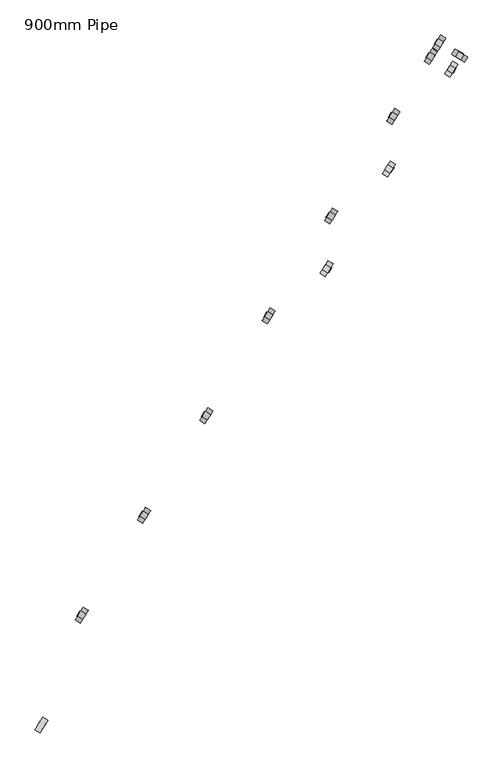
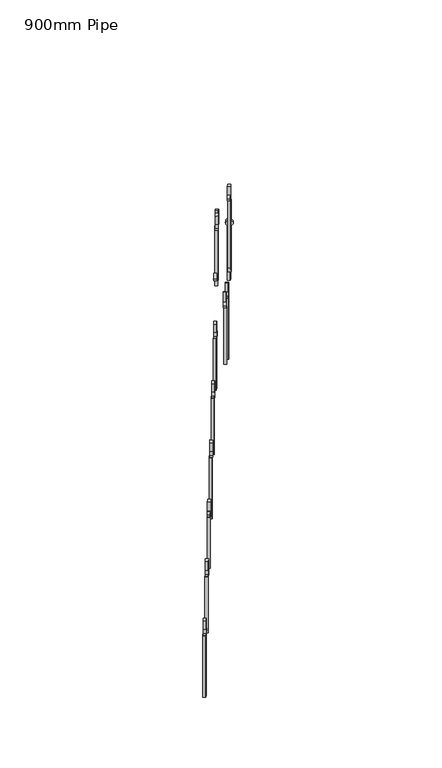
"""IFC4 building model written with IfcOpenShell, lengths in millimetres: railing geometry, 900mm Pipe."""

from ifc_helpers import new_model, si_unit, point, frame, frame_2d, origin, place, context, project, spatial, polyline, circle_curve, trimmed, segment, composite_curve, outline, extrude, source, transform, mapped, element, save


def railing_900mm_pipe_41d44f0b(model_context):
    return source(origin(), model_context, "Body", "SweptSolid", [
        extrude(outline(composite_curve([segment(trimmed(circle_curve(frame_2d((0.0, -31.75)), 31.75), [point((0.0, -63.5))], [point((0.0, 0.0))], False, "CARTESIAN"), True, "CONTINUOUS"), segment(trimmed(circle_curve(frame_2d((0.0, -31.75)), 31.75), [point((0.0, 0.0))], [point((0.0, -63.5))], False, "CARTESIAN"), True, "CONTINUOUS")], self_intersect=False), holes=[composite_curve([segment(trimmed(circle_curve(frame_2d((0.0, -31.75)), 12.7), [point((0.0, -44.45))], [point((0.0, -19.05))], True, "CARTESIAN"), True, "CONTINUOUS"), segment(trimmed(circle_curve(frame_2d((0.0, -31.75)), 12.7), [point((0.0, -19.05))], [point((0.0, -44.45))], True, "CARTESIAN"), True, "CONTINUOUS")], self_intersect=False)]), frame((47195.2119075, -51385.7704072, -600.65), z_axis=(-0.8480480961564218, 0.5299192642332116, 0.0), x_axis=(0.0, 0.0, 1.0)), (0.0, 0.0, 1.0), 25.4),
        extrude(outline(polyline([(47167.9515703, -51387.4557151), (47189.4919919, -51400.9156644), (47176.0320426, -51422.4560861), (47154.491621, -51408.9961368), (47167.9515703, -51387.4557151)])), frame((0.0, 0.0, -1200.0), z_axis=(0.0, 0.0, 1.0), x_axis=(1.0, 0.0, 0.0)), (0.0, 0.0, 1.0), 567.6),
        extrude(outline(polyline([(317.5, 0.0), (317.5, -25.4), (234.95, -25.4), (222.25, 0.0), (317.5, 0.0)])), frame((47171.6569962, -51423.4661451, -251.4), z_axis=(-0.8480480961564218, 0.5299192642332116, 0.0), x_axis=(0.0, 0.0, -1.0)), (0.0, 0.0, 1.0), 25.4),
        extrude(outline(composite_curve([segment(trimmed(circle_curve(frame_2d((0.0, -31.75)), 31.75), [point((0.0, -63.5))], [point((0.0, 0.0))], False, "CARTESIAN"), True, "CONTINUOUS"), segment(trimmed(circle_curve(frame_2d((0.0, -31.75)), 31.75), [point((0.0, 0.0))], [point((0.0, -63.5))], False, "CARTESIAN"), True, "CONTINUOUS")], self_intersect=False), holes=[composite_curve([segment(trimmed(circle_curve(frame_2d((0.0, -31.75)), 12.7), [point((0.0, -44.4499999))], [point((0.0, -19.05))], True, "CARTESIAN"), True, "CONTINUOUS"), segment(trimmed(circle_curve(frame_2d((0.0, -31.75)), 12.7), [point((0.0, -19.05))], [point((0.0, -44.4499999))], True, "CARTESIAN"), True, "CONTINUOUS")], self_intersect=False)]), frame((47460.1715397, -50961.7463592, -850.65), z_axis=(-0.8480480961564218, 0.5299192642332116, 0.0), x_axis=(0.0, 0.0, 1.0)), (0.0, 0.0, 1.0), 25.4),
        extrude(outline(polyline([(47432.9112024, -50963.431667), (47454.451624, -50976.8916164), (47440.9916747, -50998.432038), (47419.4512531, -50984.9720887), (47432.9112024, -50963.431667)])), frame((0.0, 0.0, -1500.0), z_axis=(0.0, 0.0, 1.0), x_axis=(1.0, 0.0, 0.0)), (0.0, 0.0, 1.0), 617.6),
        extrude(outline(polyline([(317.5, 0.0), (317.5, -25.4), (234.95, -25.4), (222.25, 0.0), (317.5, 0.0)])), frame((47436.6166284, -50999.442097, -501.4), z_axis=(-0.8480480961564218, 0.5299192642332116, 0.0), x_axis=(0.0, 0.0, -1.0)), (0.0, 0.0, 1.0), 25.4),
        extrude(outline(composite_curve([segment(trimmed(circle_curve(frame_2d((0.0, -31.75)), 31.75), [point((0.0, -63.5))], [point((0.0, 0.0))], False, "CARTESIAN"), True, "CONTINUOUS"), segment(trimmed(circle_curve(frame_2d((0.0, -31.75)), 31.75), [point((0.0, 0.0))], [point((0.0, -63.5))], False, "CARTESIAN"), True, "CONTINUOUS")], self_intersect=False), holes=[composite_curve([segment(trimmed(circle_curve(frame_2d((0.0, -31.75)), 12.7), [point((0.0, -44.4499999))], [point((0.0, -19.05))], True, "CARTESIAN"), True, "CONTINUOUS"), segment(trimmed(circle_curve(frame_2d((0.0, -31.75)), 12.7), [point((0.0, -19.05))], [point((0.0, -44.4499999))], True, "CARTESIAN"), True, "CONTINUOUS")], self_intersect=False)]), frame((47445.6493685, -50791.7140474, -1400.65), z_axis=(-0.8480480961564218, 0.5299192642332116, 0.0), x_axis=(0.0, 0.0, -1.0)), (0.0, 0.0, 1.0), 25.4),
        extrude(outline(polyline([(47451.3692841, -50776.5687902), (47429.8288625, -50763.1088409), (47443.2888118, -50741.5684193), (47464.8292334, -50755.0283686), (47451.3692841, -50776.5687902)])), frame((0.0, 0.0, -1950.0), z_axis=(0.0, 0.0, 1.0), x_axis=(1.0, 0.0, 0.0)), (0.0, 0.0, 1.0), 517.6),
        extrude(outline(polyline([(317.5, 0.0), (317.5, -25.4), (222.25, -25.4), (234.95, 0.0), (317.5, 0.0)])), frame((47455.7443305, -50775.5587312, -1051.4), z_axis=(-0.8480480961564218, 0.5299192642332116, 0.0), x_axis=(0.0, 0.0, -1.0)), (0.0, 0.0, 1.0), 25.4),
        extrude(outline(composite_curve([segment(trimmed(circle_curve(frame_2d((0.0, -31.7499999)), 31.75), [point((0.0, -63.5))], [point((0.0, 0.0))], False, "CARTESIAN"), True, "CONTINUOUS"), segment(trimmed(circle_curve(frame_2d((0.0, -31.7499999)), 31.75), [point((0.0, 0.0))], [point((0.0, -63.5))], False, "CARTESIAN"), True, "CONTINUOUS")], self_intersect=False), holes=[composite_curve([segment(trimmed(circle_curve(frame_2d((0.0, -31.7499999)), 12.7), [point((0.0, -44.45))], [point((0.0, -19.05))], True, "CARTESIAN"), True, "CONTINUOUS"), segment(trimmed(circle_curve(frame_2d((0.0, -31.7499999)), 12.7), [point((0.0, -19.05))], [point((0.0, -44.45))], True, "CARTESIAN"), True, "CONTINUOUS")], self_intersect=False)]), frame((47180.6897364, -51215.7380955, -1650.65), z_axis=(-0.8480480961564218, 0.5299192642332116, 0.0), x_axis=(0.0, 0.0, -1.0)), (0.0, 0.0, 1.0), 25.4),
        extrude(outline(polyline([(47186.409652, -51200.5928383), (47164.8692304, -51187.132889), (47178.3291797, -51165.5924674), (47199.8696013, -51179.0524167), (47186.409652, -51200.5928383)])), frame((0.0, 0.0, -2250.0), z_axis=(0.0, 0.0, 1.0), x_axis=(1.0, 0.0, 0.0)), (0.0, 0.0, 1.0), 567.6),
        extrude(outline(polyline([(317.5, 0.0), (317.5, -25.4), (222.25, -25.4), (234.95, 0.0), (317.5, 0.0)])), frame((47190.7846984, -51199.5827793, -1301.4), z_axis=(-0.8480480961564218, 0.5299192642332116, 0.0), x_axis=(0.0, 0.0, -1.0)), (0.0, 0.0, 1.0), 25.4),
        extrude(outline(composite_curve([segment(trimmed(circle_curve(frame_2d((0.0, -31.75)), 31.75), [point((0.0, -63.5))], [point((0.0, 0.0))], False, "CARTESIAN"), True, "CONTINUOUS"), segment(trimmed(circle_curve(frame_2d((0.0, -31.75)), 31.75), [point((0.0, 0.0))], [point((0.0, -63.5))], False, "CARTESIAN"), True, "CONTINUOUS")], self_intersect=False), holes=[composite_curve([segment(trimmed(circle_curve(frame_2d((0.0, -31.75)), 12.7), [point((0.0, -44.45))], [point((0.0, -19.05))], True, "CARTESIAN"), True, "CONTINUOUS"), segment(trimmed(circle_curve(frame_2d((0.0, -31.75)), 12.7), [point((0.0, -19.05))], [point((0.0, -44.45))], True, "CARTESIAN"), True, "CONTINUOUS")], self_intersect=False)]), frame((46915.7301043, -51639.7621436, -1900.65), z_axis=(-0.8480480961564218, 0.5299192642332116, 0.0), x_axis=(0.0, 0.0, -1.0)), (0.0, 0.0, 1.0), 25.4),
        extrude(outline(polyline([(46921.4500199, -51624.6168864), (46899.9095983, -51611.1569371), (46913.3695476, -51589.6165154), (46934.9099692, -51603.0764648), (46921.4500199, -51624.6168864)])), frame((0.0, 0.0, -2550.0), z_axis=(0.0, 0.0, 1.0), x_axis=(1.0, 0.0, 0.0)), (0.0, 0.0, 1.0), 617.6),
        extrude(outline(polyline([(317.5, 0.0), (317.5, -25.4), (222.25, -25.4), (234.95, 0.0), (317.5, 0.0)])), frame((46925.8250663, -51623.6068274, -1551.4), z_axis=(-0.8480480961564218, 0.5299192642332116, 0.0), x_axis=(0.0, 0.0, -1.0)), (0.0, 0.0, 1.0), 25.4),
        extrude(outline(composite_curve([segment(trimmed(circle_curve(frame_2d((0.0, -31.75)), 31.75), [point((0.0, -63.5))], [point((0.0, 0.0))], False, "CARTESIAN"), True, "CONTINUOUS"), segment(trimmed(circle_curve(frame_2d((0.0, -31.75)), 31.75), [point((0.0, 0.0))], [point((0.0, -63.5))], False, "CARTESIAN"), True, "CONTINUOUS")], self_intersect=False), holes=[composite_curve([segment(trimmed(circle_curve(frame_2d((0.0, -31.75)), 12.7), [point((0.0, -44.45))], [point((0.0, -19.0500001))], True, "CARTESIAN"), True, "CONTINUOUS"), segment(trimmed(circle_curve(frame_2d((0.0, -31.75)), 12.7), [point((0.0, -19.0500001))], [point((0.0, -44.45))], True, "CARTESIAN"), True, "CONTINUOUS")], self_intersect=False)]), frame((46650.7704722, -52063.7861917, -2150.65), z_axis=(-0.8480480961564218, 0.5299192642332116, 0.0), x_axis=(0.0, 0.0, -1.0)), (0.0, 0.0, 1.0), 25.4),
        extrude(outline(polyline([(46656.4903878, -52048.6409345), (46634.9499661, -52035.1809852), (46648.4099155, -52013.6405635), (46669.9503371, -52027.1005128), (46656.4903878, -52048.6409345)])), frame((0.0, 0.0, -2700.0), z_axis=(0.0, 0.0, 1.0), x_axis=(1.0, 0.0, 0.0)), (0.0, 0.0, 1.0), 517.6),
        extrude(outline(polyline([(317.5, 0.0), (317.5, -25.4), (222.25, -25.4), (234.95, 0.0), (317.5, 0.0)])), frame((46660.8654342, -52047.6308754, -1801.4), z_axis=(-0.8480480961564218, 0.5299192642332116, 0.0), x_axis=(0.0, 0.0, -1.0)), (0.0, 0.0, 1.0), 25.4),
        extrude(outline(composite_curve([segment(trimmed(circle_curve(frame_2d((0.0, -31.7499999)), 31.75), [point((0.0, -63.5))], [point((0.0, 0.0))], False, "CARTESIAN"), True, "CONTINUOUS"), segment(trimmed(circle_curve(frame_2d((0.0, -31.7499999)), 31.75), [point((0.0, 0.0))], [point((0.0, -63.5))], False, "CARTESIAN"), True, "CONTINUOUS")], self_intersect=False), holes=[composite_curve([segment(trimmed(circle_curve(frame_2d((0.0, -31.7499999)), 12.7), [point((0.0, -44.4499999))], [point((0.0, -19.0499999))], True, "CARTESIAN"), True, "CONTINUOUS"), segment(trimmed(circle_curve(frame_2d((0.0, -31.7499999)), 12.7), [point((0.0, -19.0499999))], [point((0.0, -44.4499999))], True, "CARTESIAN"), True, "CONTINUOUS")], self_intersect=False)]), frame((46385.8108401, -52487.8102397, -2400.65), z_axis=(-0.8480480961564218, 0.5299192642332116, 0.0), x_axis=(0.0, 0.0, -1.0)), (0.0, 0.0, 1.0), 25.4),
        extrude(outline(polyline([(46391.5307557, -52472.6649826), (46369.990334, -52459.2050332), (46383.4502833, -52437.6646116), (46404.990705, -52451.1245609), (46391.5307557, -52472.6649826)])), frame((0.0, 0.0, -3000.0), z_axis=(0.0, 0.0, 1.0), x_axis=(1.0, 0.0, 0.0)), (0.0, 0.0, 1.0), 567.6),
        extrude(outline(polyline([(317.5, 0.0), (317.5, -25.4), (222.25, -25.4), (234.95, 0.0), (317.5, 0.0)])), frame((46395.905802, -52471.6549235, -2051.4), z_axis=(-0.8480480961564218, 0.5299192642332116, 0.0), x_axis=(0.0, 0.0, -1.0)), (0.0, 0.0, 1.0), 25.4),
        extrude(outline(composite_curve([segment(trimmed(circle_curve(frame_2d((0.0, -31.75)), 31.75), [point((0.0, -63.5))], [point((0.0, 0.0))], False, "CARTESIAN"), True, "CONTINUOUS"), segment(trimmed(circle_curve(frame_2d((0.0, -31.75)), 31.75), [point((0.0, 0.0))], [point((0.0, -63.5))], False, "CARTESIAN"), True, "CONTINUOUS")], self_intersect=False), holes=[composite_curve([segment(trimmed(circle_curve(frame_2d((0.0, -31.75)), 12.7), [point((0.0, -44.4499999))], [point((0.0, -19.05))], True, "CARTESIAN"), True, "CONTINUOUS"), segment(trimmed(circle_curve(frame_2d((0.0, -31.75)), 12.7), [point((0.0, -19.05))], [point((0.0, -44.4499999))], True, "CARTESIAN"), True, "CONTINUOUS")], self_intersect=False)]), frame((46120.8512079, -52911.8342878, -2650.65), z_axis=(-0.8480480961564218, 0.5299192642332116, 0.0), x_axis=(0.0, 0.0, -1.0)), (0.0, 0.0, 1.0), 25.4),
        extrude(outline(polyline([(46126.5711235, -52896.6890306), (46105.0307019, -52883.2290813), (46118.4906512, -52861.6886597), (46140.0310729, -52875.148609), (46126.5711235, -52896.6890306)])), frame((0.0, 0.0, -3300.0), z_axis=(0.0, 0.0, 1.0), x_axis=(1.0, 0.0, 0.0)), (0.0, 0.0, 1.0), 617.6),
        extrude(outline(polyline([(317.5, 0.0), (317.5, -25.4), (222.25, -25.4), (234.95, 0.0), (317.5, 0.0)])), frame((46130.9461699, -52895.6789716, -2301.4), z_axis=(-0.8480480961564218, 0.5299192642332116, 0.0), x_axis=(0.0, 0.0, -1.0)), (0.0, 0.0, 1.0), 25.4),
        extrude(outline(composite_curve([segment(trimmed(circle_curve(frame_2d((0.0, -31.75)), 31.75), [point((0.0, -63.5))], [point((0.0, 0.0))], False, "CARTESIAN"), True, "CONTINUOUS"), segment(trimmed(circle_curve(frame_2d((0.0, -31.75)), 31.75), [point((0.0, 0.0))], [point((0.0, -63.5))], False, "CARTESIAN"), True, "CONTINUOUS")], self_intersect=False), holes=[composite_curve([segment(trimmed(circle_curve(frame_2d((0.0, -31.75)), 12.7), [point((0.0, -44.45))], [point((0.0, -19.05))], True, "CARTESIAN"), True, "CONTINUOUS"), segment(trimmed(circle_curve(frame_2d((0.0, -31.75)), 12.7), [point((0.0, -19.05))], [point((0.0, -44.45))], True, "CARTESIAN"), True, "CONTINUOUS")], self_intersect=False)]), frame((47725.1311718, -50537.7223111, -220.65), z_axis=(-0.8480480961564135, 0.5299192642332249, 0.0), x_axis=(0.0, 0.0, 1.0)), (0.0, 0.0, 1.0), 25.4),
        extrude(outline(polyline([(0.0, -25.4), (0.0, 0.0), (676.5249835, 0.0), (732.7250275, -25.4), (0.0, -25.4)])), frame((47705.9513068, -50574.4079899, -252.4), z_axis=(-0.8480480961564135, 0.5299192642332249, 0.0), x_axis=(0.0, 0.0, -1.0)), (0.0, 0.0, 1.0), 25.4),
        extrude(outline(polyline([(47715.0362098, -50553.8776273), (47701.5762605, -50575.418049), (47680.0358388, -50561.9580996), (47693.4957881, -50540.417678), (47715.0362098, -50553.8776273)])), frame((0.0, 0.0, -188.9), z_axis=(0.0, 0.0, 1.0), x_axis=(1.0, 0.0, 0.0)), (0.0, 0.0, 1.0), 88.9),
        extrude(outline(composite_curve([segment(trimmed(circle_curve(frame_2d((0.0, -31.75)), 31.75), [point((0.0, -63.5))], [point((0.0, 0.0))], False, "CARTESIAN"), True, "CONTINUOUS"), segment(trimmed(circle_curve(frame_2d((0.0, -31.75)), 31.75), [point((0.0, 0.0))], [point((0.0, -63.5))], False, "CARTESIAN"), True, "CONTINUOUS")], self_intersect=False), holes=[composite_curve([segment(trimmed(circle_curve(frame_2d((0.0, -31.75)), 12.7), [point((0.0, -44.45))], [point((0.0, -19.0500001))], True, "CARTESIAN"), True, "CONTINUOUS"), segment(trimmed(circle_curve(frame_2d((0.0, -31.75)), 12.7), [point((0.0, -19.0500001))], [point((0.0, -44.45))], True, "CARTESIAN"), True, "CONTINUOUS")], self_intersect=False)]), frame((47699.805626, -50494.3709542, -520.65), z_axis=(0.529919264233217, 0.8480480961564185, 0.0), x_axis=(0.0, 0.0, -1.0)), (0.0, 0.0, 1.0), 25.4),
        extrude(outline(polyline([(47714.9508832, -50500.0908698), (47728.4108325, -50478.5504481), (47749.9512542, -50492.0103975), (47736.4913049, -50513.5508191), (47714.9508832, -50500.0908698)])), frame((0.0, 0.0, -1100.0), z_axis=(0.0, 0.0, 1.0), x_axis=(1.0, 0.0, 0.0)), (0.0, 0.0, 1.0), 547.6),
        extrude(outline(polyline([(47729.4208916, -50482.9254945), (47750.9613132, -50496.3854438), (47737.5013639, -50517.9258655), (47715.9609423, -50504.4659162), (47729.4208916, -50482.9254945)])), frame((0.0, 0.0, -488.9), z_axis=(0.0, 0.0, 1.0), x_axis=(1.0, 0.0, 0.0)), (0.0, 0.0, 1.0), 88.9),
        extrude(outline(composite_curve([segment(trimmed(circle_curve(frame_2d((0.0, -31.7500001)), 31.75), [point((0.0, -63.5))], [point((0.0, 0.0))], False, "CARTESIAN"), True, "CONTINUOUS"), segment(trimmed(circle_curve(frame_2d((0.0, -31.7500001)), 31.75), [point((0.0, 0.0))], [point((0.0, -63.5))], False, "CARTESIAN"), True, "CONTINUOUS")], self_intersect=False), holes=[composite_curve([segment(trimmed(circle_curve(frame_2d((0.0, -31.7500001)), 12.7), [point((0.0, -44.45))], [point((0.0, -19.05))], True, "CARTESIAN"), True, "CONTINUOUS"), segment(trimmed(circle_curve(frame_2d((0.0, -31.7500001)), 12.7), [point((0.0, -19.05))], [point((0.0, -44.45))], True, "CARTESIAN"), True, "CONTINUOUS")], self_intersect=False)]), frame((47640.5502512, -50479.8074351, -520.65), z_axis=(-0.848048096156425, 0.5299192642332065, 0.0), x_axis=(0.0, 0.0, -1.0)), (0.0, 0.0, 1.0), 25.4),
        extrude(outline(polyline([(47646.2701668, -50464.6621779), (47624.7297452, -50451.2022286), (47638.1896945, -50429.661807), (47659.7301162, -50443.1217563), (47646.2701668, -50464.6621779)])), frame((0.0, 0.0, -1100.0), z_axis=(0.0, 0.0, 1.0), x_axis=(1.0, 0.0, 0.0)), (0.0, 0.0, 1.0), 547.6),
        extrude(outline(polyline([(47629.1047916, -50450.1921696), (47642.5647409, -50428.6517479), (47664.1051625, -50442.1116972), (47650.6452132, -50463.6521189), (47629.1047916, -50450.1921696)])), frame((0.0, 0.0, -488.9), z_axis=(0.0, 0.0, 1.0), x_axis=(1.0, 0.0, 0.0)), (0.0, 0.0, 1.0), 88.9),
        extrude(outline(composite_curve([segment(trimmed(circle_curve(frame_2d((0.0, -31.75)), 31.75), [point((0.0, -63.5))], [point((0.0, 0.0))], False, "CARTESIAN"), True, "CONTINUOUS"), segment(trimmed(circle_curve(frame_2d((0.0, -31.75)), 31.75), [point((0.0, 0.0))], [point((0.0, -63.5))], False, "CARTESIAN"), True, "CONTINUOUS")], self_intersect=False), holes=[composite_curve([segment(trimmed(circle_curve(frame_2d((0.0, -31.75)), 12.7), [point((0.0, -44.45))], [point((0.0, -19.05))], True, "CARTESIAN"), True, "CONTINUOUS"), segment(trimmed(circle_curve(frame_2d((0.0, -31.75)), 12.7), [point((0.0, -19.05))], [point((0.0, -44.45))], True, "CARTESIAN"), True, "CONTINUOUS")], self_intersect=False)]), frame((47604.6251478, -50537.2996186, -520.65), z_axis=(-0.8480480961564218, 0.5299192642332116, 0.0), x_axis=(0.0, 0.0, -1.0)), (0.0, 0.0, 1.0), 25.4),
        extrude(outline(polyline([(0.0, -25.4), (0.0, 0.0), (555.5375, 0.0), (542.8375, -25.4), (0.0, -25.4)])), frame((47610.3450634, -50522.1543614, -552.4), z_axis=(-0.8480480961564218, 0.5299192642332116, 0.0), x_axis=(0.0, 0.0, -1.0)), (0.0, 0.0, 1.0), 25.4),
        extrude(outline(polyline([(317.5, 0.0), (317.5, -25.4), (222.25, -25.4), (234.95, 0.0), (317.5, 0.0)])), frame((47614.7201098, -50521.1443024, -171.4), z_axis=(-0.8480480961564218, 0.5299192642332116, 0.0), x_axis=(0.0, 0.0, -1.0)), (0.0, 0.0, 1.0), 25.4),
        extrude(outline(composite_curve([segment(trimmed(circle_curve(frame_2d((0.0, -31.7499999)), 31.75), [point((0.0, -63.5))], [point((0.0, 0.0))], False, "CARTESIAN"), True, "CONTINUOUS"), segment(trimmed(circle_curve(frame_2d((0.0, -31.7499999)), 31.75), [point((0.0, 0.0))], [point((0.0, -63.5))], False, "CARTESIAN"), True, "CONTINUOUS")], self_intersect=False), holes=[composite_curve([segment(trimmed(circle_curve(frame_2d((0.0, -31.7499999)), 12.7), [point((0.0, -44.45))], [point((0.0, -19.05))], True, "CARTESIAN"), True, "CONTINUOUS"), segment(trimmed(circle_curve(frame_2d((0.0, -31.7499999)), 12.7), [point((0.0, -19.05))], [point((0.0, -44.45))], True, "CARTESIAN"), True, "CONTINUOUS")], self_intersect=False)]), frame((45983.0215906, -53325.6804272, 1273.1), z_axis=(-0.8480480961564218, 0.5299192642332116, 0.0), x_axis=(0.0, 0.0, 1.0)), (0.0, 0.0, 1.0), 25.4),
    ])


if __name__ == "__main__":
    model = new_model("IFC4")
    model_context = context("Model", 3, world=origin())
    ifc_project = project(units=[si_unit("LENGTHUNIT", "METRE", prefix="MILLI")], contexts=[model_context])
    site = spatial("IfcSite", under=ifc_project)
    building = spatial("IfcBuilding", under=site)
    placement = place(None, origin())
    railing_900mm_pipe_shape = railing_900mm_pipe_41d44f0b(model_context)
    element("IfcRailing", 1, ObjectType="900mm Pipe", at=placement, inside=building, context=model_context, shape_type="MappedRepresentation", body=[
        mapped(railing_900mm_pipe_shape, transform((0.0, 0.0, 0.0), x_axis=(1.0, 0.0, 0.0), y_axis=(0.0, 1.0, 0.0), z_axis=(0.0, 0.0, 1.0))),
    ])
    save(model, "model.ifc")
